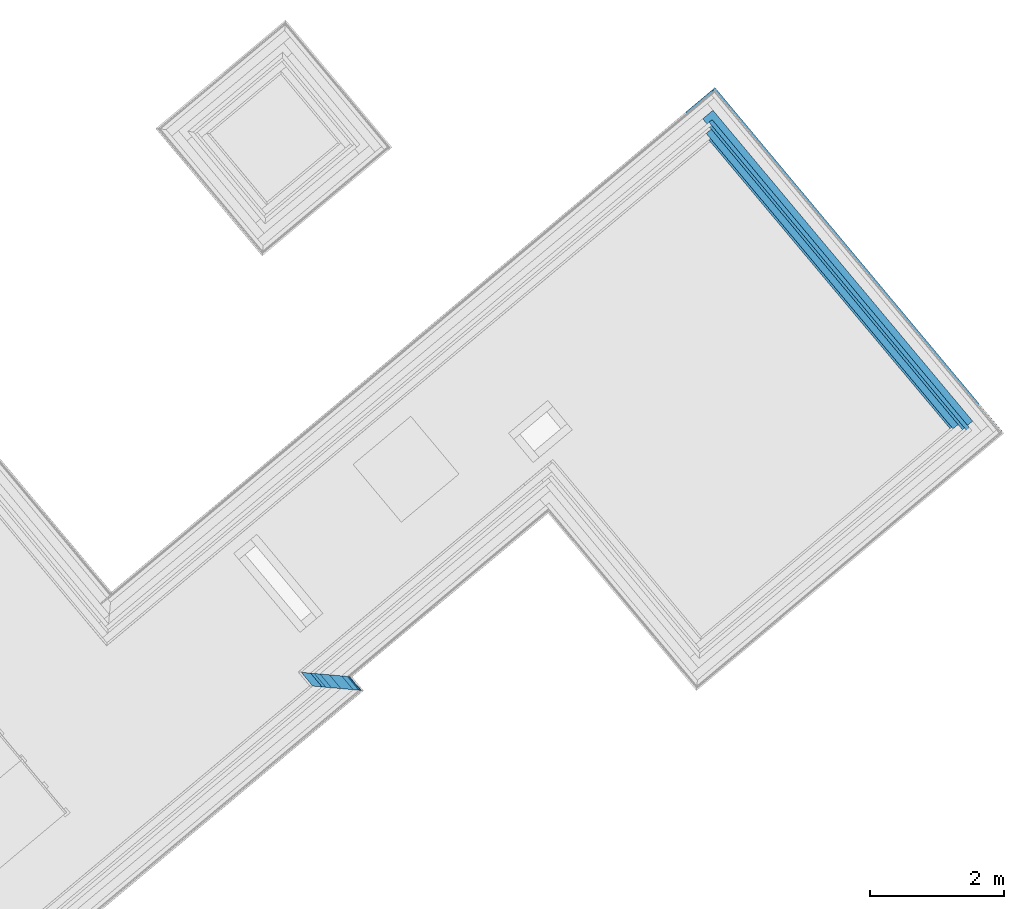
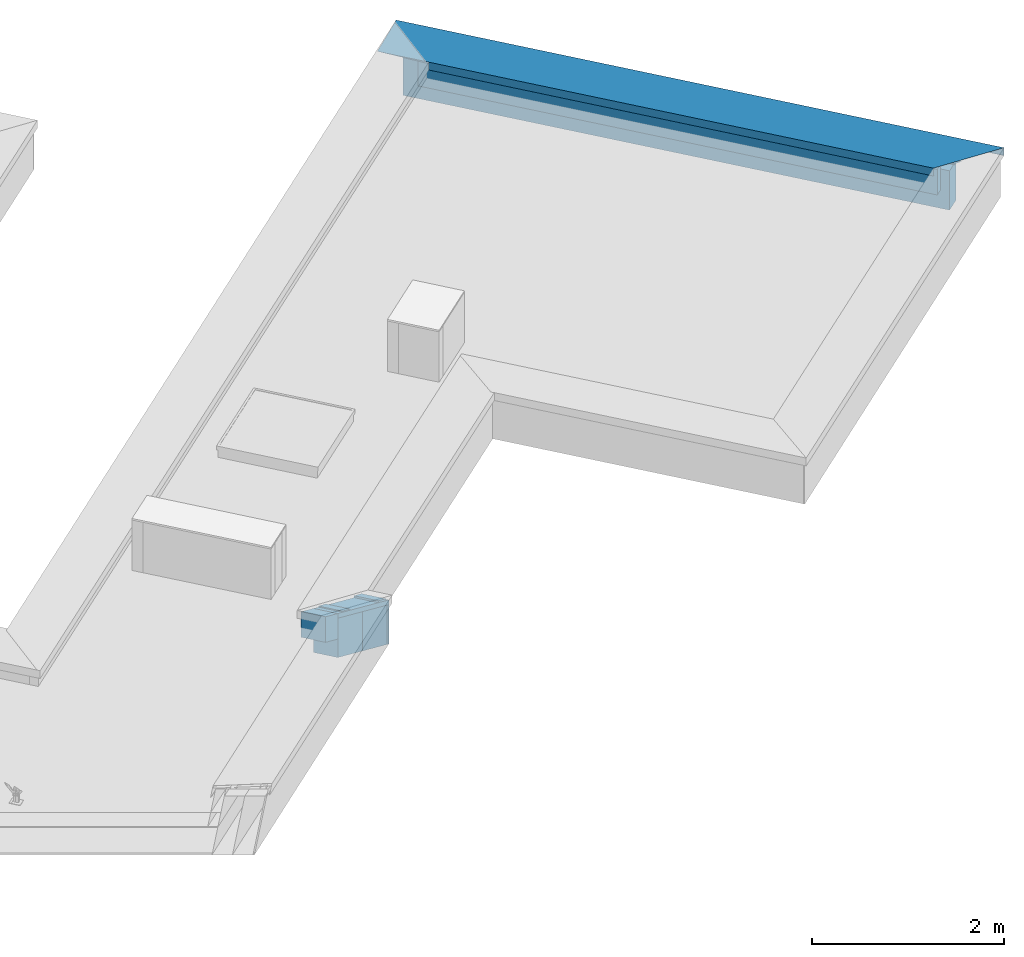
# One storey, part 12 of 13: 12 building element parts, 2 elements without a shape of their own.
"""IFC4 building model written with IfcOpenShell, lengths in metres."""

from ifc_helpers import new_model, entity, si_unit, converted_unit, derived_unit, direction, frame, origin_with_axes, place, context, subcontext, project, spatial, polygons, material, type_object, element, aggregate, save


model = new_model("IFC4")

# Units and contexts
model_context = context("Model", 3, precision=1e-05, world=origin_with_axes(), true_north=direction((0.0, 1.0)))
body_context = subcontext(model_context, "Body", "Model", "MODEL_VIEW")
ifc_project = project(units=[si_unit("LENGTHUNIT", "METRE"), si_unit("AREAUNIT", "SQUARE_METRE"), si_unit("VOLUMEUNIT", "CUBIC_METRE"), converted_unit("PLANEANGLEUNIT", "DEGREE", entity("IfcPlaneAngleMeasure", 0.0174532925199), si_unit("PLANEANGLEUNIT", "RADIAN"), dimensions=[0, 0, 0, 0, 0, 0, 0]), converted_unit("TIMEUNIT", "Year", entity("IfcTimeMeasure", 31556926.0), si_unit("TIMEUNIT", "SECOND"), dimensions=[0, 0, 1, 0, 0, 0, 0]), si_unit("MASSUNIT", "GRAM", prefix="KILO"), si_unit("THERMODYNAMICTEMPERATUREUNIT", "DEGREE_CELSIUS"), si_unit("LUMINOUSINTENSITYUNIT", "LUMEN"), si_unit("ENERGYUNIT", "JOULE", prefix="MEGA"), derived_unit("THERMALCONDUCTANCEUNIT", [(si_unit("POWERUNIT", "WATT"), 1), (si_unit("LENGTHUNIT", "METRE"), -1), (si_unit("THERMODYNAMICTEMPERATUREUNIT", "KELVIN"), -1)]), derived_unit("SPECIFICHEATCAPACITYUNIT", [(si_unit("ENERGYUNIT", "JOULE"), 1), (si_unit("MASSUNIT", "GRAM", prefix="KILO"), -1), (si_unit("THERMODYNAMICTEMPERATUREUNIT", "KELVIN"), -1)]), derived_unit("MASSDENSITYUNIT", [(si_unit("MASSUNIT", "GRAM", prefix="KILO"), 1), (si_unit("VOLUMEUNIT", "CUBIC_METRE"), -1)])], contexts=[model_context])

# Site, building, storey
site_placement = place(None, frame((-0.00153261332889, -0.00661245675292, 0.0), z_axis=(0.0, 0.0, 1.0), x_axis=(1.0, 0.0, 0.0)))
site = spatial("IfcSite", under=ifc_project, at=site_placement, Name="Gelände", CompositionType="ELEMENT")
building_placement = place(site_placement, origin_with_axes())
building = spatial("IfcBuilding", under=site, at=building_placement, Name="Gebäude", CompositionType="ELEMENT")
storey_placement = place(building_placement, frame((0.0, 0.0, 11.84), z_axis=(0.0, 0.0, 1.0), x_axis=(1.0, 0.0, 0.0)))
storey = spatial("IfcBuildingStorey", under=building, at=storey_placement, Name="DA", CompositionType="ELEMENT", Elevation=11.84)

# Wall, building element parts
wall_type = type_object("IfcWallType", Name="Individuelles Profil 574 x 610", PredefinedType="NOTDEFINED")
wall_1_placement = place(storey_placement, frame((2.48571839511, 17.6952214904, 0.0), z_axis=(0.0, 0.0, 1.0), x_axis=(-0.640621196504, 0.76785707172, 0.0)))
wall_1 = element("IfcWall", 1, at=wall_1_placement, inside=storey, type_object=wall_type, Name="Wand-004", PredefinedType="NOTDEFINED")
ifc_material_1 = material(Name="EPS 1")
building_element_part_1_placement = place(wall_1_placement, origin_with_axes())
building_element_part_1 = element("IfcBuildingElementPart", 2, at=building_element_part_1_placement, material=ifc_material_1, Name="EPS 1", PredefinedType="NOTDEFINED", context=body_context, shape_type="Tessellation", body=[
    polygons([(0.568969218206, 0.300000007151, 0.23500000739), (0.299575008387, 0.300000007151, 0.23500000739), (0.299575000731, 0.30000000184, 0.560000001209), (0.568969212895, 0.30000000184, 0.560000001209), (0.468969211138, 0.200000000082, 0.23500000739), (0.19971666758, 0.200000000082, 0.23500000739), (0.19971666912, 0.200000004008, 0.560000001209), (0.468969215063, 0.200000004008, 0.560000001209)], [[[1, 2, 3, 4]], [[2, 1, 5, 6]], [[7, 3, 2, 6]], [[8, 4, 3, 7]], [[4, 8, 5, 1]], [[5, 8, 7, 6]]], closed=True),
])
ifc_material_2 = material(Name="Vollholz")
building_element_part_2_placement = place(wall_1_placement, origin_with_axes())
building_element_part_2 = element("IfcBuildingElementPart", 3, at=building_element_part_2_placement, material=ifc_material_2, Name="Vollholz", PredefinedType="NOTDEFINED", context=body_context, shape_type="Tessellation", body=[
    polygons([(0.368969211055, 0.1, 0.560000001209), (0.368969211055, 0.1, 0.575979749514), (0.0998583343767, 0.1, 0.575979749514), (0.0998583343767, 0.1, 0.560000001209), (0.429079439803, 0.160110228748, 0.573880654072), (0.428969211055, 0.16, 0.560000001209), (0.159883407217, 0.160110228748, 0.573880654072), (0.159773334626, 0.16, 0.560000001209)], [[[1, 2, 3, 4]], [[5, 2, 1, 6]], [[2, 5, 7, 3]], [[4, 3, 7, 8]], [[6, 1, 4, 8]], [[5, 6, 8, 7]]], closed=True),
])
ifc_material_3 = material(Name="Stahlbeton Wand Garage")
building_element_part_3_placement = place(wall_1_placement, origin_with_axes())
building_element_part_3 = element("IfcBuildingElementPart", 4, at=building_element_part_3_placement, material=ifc_material_3, Name="Stahlbeton Wand Garage", PredefinedType="NOTDEFINED", context=body_context, shape_type="Tessellation", body=[
    polygons([(0.268969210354, -7.0115113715e-10, 0.0), (0.268969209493, -1.56214596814e-09, 0.500000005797), (-1.90311411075e-09, -2.53464271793e-09, 0.500000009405), (-7.83380471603e-10, -1.08753894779e-09, 0.0), (0.468969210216, 0.199999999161, 0.500000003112), (0.468969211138, 0.200000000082, 0.0), (0.468969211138, 0.200000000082, 0.23500000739), (0.199716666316, 0.199999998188, 0.500000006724), (0.19971666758, 0.200000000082, 0.0), (0.19971666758, 0.200000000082, 0.23500000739)], [[[1, 2, 3, 4]], [[5, 2, 1, 6, 7]], [[2, 5, 8, 3]], [[9, 4, 3, 8, 10]], [[6, 1, 4, 9]], [[7, 6, 9, 10]], [[5, 7, 10, 8]]], closed=True),
])
ifc_material_4 = material(Name="Brettschichtholz")
building_element_part_4_placement = place(wall_1_placement, origin_with_axes())
building_element_part_4 = element("IfcBuildingElementPart", 5, at=building_element_part_4_placement, material=ifc_material_4, Name="Brettschichtholz", PredefinedType="NOTDEFINED", context=body_context, shape_type="Tessellation", body=[
    polygons([(0.19971666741, 0.200000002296, 0.560000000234), (0.159773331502, 0.159999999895, 0.560000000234), (0.42896921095, 0.159999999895, 0.560000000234), (0.468969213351, 0.200000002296, 0.560000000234), (0.199716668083, 0.200000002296, 0.499999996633), (-0.214695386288, -0.214999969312, 0.50000001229), (-0.214695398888, -0.214999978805, 0.55999999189), (-0.189855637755, -0.190124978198, 0.560000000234), (-0.129940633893, -0.130124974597, 0.560000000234), (0.09985832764, 0.0999999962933, 0.560000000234), (0.368969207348, 0.0999999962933, 0.560000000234), (0.468969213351, 0.200000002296, 0.499999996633), (0.138844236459, -0.130124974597, 0.560000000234), (0.0788442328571, -0.190124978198, 0.560000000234), (0.0539692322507, -0.214999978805, 0.55999999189), (0.0539692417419, -0.214999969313, 0.50000001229)], [[[1, 2, 3, 4]], [[1, 5, 6, 7, 8, 9, 10, 2]], [[3, 2, 10, 11]], [[12, 4, 3, 11, 13, 14, 15, 16]], [[5, 1, 4, 12]], [[5, 12, 16, 6]], [[16, 15, 7, 6]], [[15, 14, 8, 7]], [[13, 9, 8, 14]], [[11, 10, 9, 13]]], closed=True),
])
building_element_part_5_placement = place(wall_1_placement, origin_with_axes())
building_element_part_5 = element("IfcBuildingElementPart", 6, at=building_element_part_5_placement, material=ifc_material_1, Name="EPS 1", PredefinedType="NOTDEFINED", context=body_context, shape_type="Tessellation", body=[
    polygons([(0.0689692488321, -0.199999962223, 0.0), (0.0689692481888, -0.199999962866, 0.500000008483), (-0.199716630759, -0.199999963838, 0.500000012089), (-0.199716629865, -0.19999996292, 0.0), (0.26896921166, 6.04444494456e-10, 0.500000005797), (0.268969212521, 1.46543932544e-09, 0.0), (2.60405030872e-10, -3.6805225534e-10, 0.500000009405), (1.38014222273e-09, 1.07904973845e-09, 0.0)], [[[1, 2, 3, 4]], [[5, 2, 1, 6]], [[2, 5, 7, 3]], [[4, 3, 7, 8]], [[6, 1, 4, 8]], [[5, 6, 8, 7]]], closed=True),
])
building_element_part_6_placement = place(wall_1_placement, origin_with_axes())
building_element_part_6 = element("IfcBuildingElementPart", 7, at=building_element_part_6_placement, material=ifc_material_2, Name="Vollholz", PredefinedType="NOTDEFINED", context=body_context, shape_type="Tessellation", body=[
    polygons([(0.138844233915, -0.130124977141, 0.560000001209), (0.0788442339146, -0.190124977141, 0.560000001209), (-0.189855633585, -0.190124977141, 0.560000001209), (-0.129940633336, -0.130124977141, 0.560000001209), (0.0789843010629, -0.189984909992, 0.586106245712), (0.138844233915, -0.130124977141, 0.584015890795), (-0.189715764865, -0.189984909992, 0.586106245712), (-0.129940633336, -0.130124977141, 0.584015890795)], [[[1, 2, 3, 4]], [[5, 2, 1, 6]], [[2, 5, 7, 3]], [[4, 3, 7, 8]], [[6, 1, 4, 8]], [[5, 6, 8, 7]]], closed=True),
])
ifc_material_5 = material(Name="Zementputz")
building_element_part_7_placement = place(wall_1_placement, origin_with_axes())
building_element_part_7 = element("IfcBuildingElementPart", 8, at=building_element_part_7_placement, material=ifc_material_5, Name="Zementputz", PredefinedType="NOTDEFINED", context=body_context, shape_type="Tessellation", body=[
    polygons([(0.0539692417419, -0.214999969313, 0.0), (0.0539692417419, -0.214999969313, 0.50000001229), (-0.214695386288, -0.214999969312, 0.50000001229), (-0.214695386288, -0.214999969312, 0.0), (0.0689692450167, -0.199999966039, 0.500000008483), (0.06896924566, -0.199999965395, 0.0), (-0.199716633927, -0.19999996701, 0.500000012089), (-0.199716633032, -0.199999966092, 0.0)], [[[1, 2, 3, 4]], [[5, 2, 1, 6]], [[2, 5, 7, 3]], [[4, 3, 7, 8]], [[6, 1, 4, 8]], [[5, 6, 8, 7]]], closed=True),
])
aggregate(wall_1, [building_element_part_1, building_element_part_2, building_element_part_3, building_element_part_4, building_element_part_5, building_element_part_6, building_element_part_7])

wall_2_placement = place(storey_placement, frame((8.04940660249, 26.3441297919, 0.0), z_axis=(0.0, 0.0, 1.0), x_axis=(0.641209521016, -0.767365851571, 0.0)))
wall_2 = element("IfcWall", 9, at=wall_2_placement, inside=storey, type_object=wall_type, Name="Wand-004", PredefinedType="NOTDEFINED")
building_element_part_8_placement = place(wall_2_placement, origin_with_axes())
building_element_part_8 = element("IfcBuildingElementPart", 10, at=building_element_part_8_placement, material=ifc_material_3, Name="Stahlbeton Wand Garage", PredefinedType="NOTDEFINED", context=body_context, shape_type="Tessellation", body=[
    polygons([(1.27252164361e-09, 0.0, 0.498822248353), (1.27252164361e-09, 0.0, 0.5), (6.05755328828, 0.0, 0.5), (6.05755328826, 0.0, 0.498822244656), (6.05755328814, 0.0, 0.491006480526), (6.0575532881, 0.0, 0.488695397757), (6.05755328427, 0.0, 0.235000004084), (6.05755328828, 0.0, 0.0), (1.27252164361e-09, 0.0, 0.0), (1.27252164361e-09, 0.0, 0.235000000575), (1.27252164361e-09, 0.0, 0.488695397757), (1.27252164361e-09, 0.0, 0.491006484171), (1.15820597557e-09, -0.2, 0.5), (1.15820597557e-09, -0.2, 0.498822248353), (6.05768353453, -0.2, 0.5), (6.05768353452, -0.2, 0.498822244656), (6.0576835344, -0.2, 0.491006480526), (6.05768353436, -0.2, 0.488695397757), (6.05768353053, -0.200000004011, 0.235000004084), (6.05768353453, -0.2, 0.0), (1.15820952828e-09, -0.2, 0.0), (1.15820775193e-09, -0.200000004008, 0.235000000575), (1.15820597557e-09, -0.2, 0.488695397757), (1.15820597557e-09, -0.2, 0.491006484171)], [[[1, 2, 3, 4, 5, 6, 7, 8, 9, 10, 11, 12]], [[13, 2, 1, 14]], [[2, 13, 15, 3]], [[4, 3, 15, 16]], [[4, 16, 17, 5]], [[5, 17, 18, 6]], [[6, 18, 19, 7]], [[7, 19, 20, 8]], [[21, 9, 8, 20]], [[22, 10, 9, 21]], [[23, 11, 10, 22]], [[24, 12, 11, 23]], [[14, 1, 12, 24]], [[13, 14, 24, 23, 22, 19, 18, 17, 16, 15]], [[22, 21, 20, 19]]], closed=True),
])
building_element_part_9_placement = place(wall_2_placement, origin_with_axes())
building_element_part_9 = element("IfcBuildingElementPart", 11, at=building_element_part_9_placement, material=ifc_material_2, Name="Vollholz", PredefinedType="NOTDEFINED", context=body_context, shape_type="Tessellation", body=[
    polygons([(0.0999999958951, -0.1, 0.573880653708), (0.0999998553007, -0.1, 0.575979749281), (6.15761843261, -0.100000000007, 0.575979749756), (6.09750819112, -0.1, 0.573880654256), (6.09755530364, -0.1, 0.567947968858), (6.09761841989, -0.1, 0.560000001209), (0.0999999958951, -0.1, 0.560000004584), (0.0999999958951, -0.1, 0.567947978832), (0.0999999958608, -0.160110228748, 0.573880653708), (6.09754733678, -0.160110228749, 0.573880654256), (6.09759441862, -0.160063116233, 0.567947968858), (6.09765749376, -0.16, 0.560000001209), (0.0999999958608, -0.16, 0.560000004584), (0.0999999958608, -0.160063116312, 0.567947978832)], [[[1, 2, 3, 4, 5, 6, 7, 8]], [[9, 2, 1]], [[2, 9, 10, 3]], [[4, 3, 10]], [[4, 10, 11, 5]], [[5, 11, 12, 6]], [[13, 7, 6, 12]], [[14, 8, 7, 13]], [[9, 1, 8, 14]], [[9, 14, 13, 12, 11, 10]]], closed=True),
])
building_element_part_10_placement = place(wall_2_placement, origin_with_axes())
building_element_part_10 = element("IfcBuildingElementPart", 12, at=building_element_part_10_placement, material=ifc_material_1, Name="EPS 1", PredefinedType="NOTDEFINED", context=body_context, shape_type="Tessellation", body=[
    polygons([(0.200000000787, -0.200000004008, 0.519224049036), (0.200000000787, -0.200000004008, 0.559999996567), (5.95768351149, -0.200000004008, 0.560000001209), (5.95768351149, -0.200000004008, 0.519224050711), (5.95768351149, -0.200000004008, 0.51136132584), (5.95768351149, -0.200000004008, 0.509050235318), (5.95768351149, -0.200000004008, 0.499999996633), (5.95768351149, -0.200000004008, 0.498822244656), (5.95768351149, -0.200000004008, 0.491006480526), (5.95768351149, -0.200000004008, 0.488695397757), (5.95768351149, -0.200000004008, 0.235000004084), (0.200000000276, -0.200000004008, 0.235000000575), (0.199999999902, -0.200000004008, 0.488695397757), (0.199999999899, -0.200000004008, 0.491006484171), (0.199999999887, -0.200000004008, 0.498822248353), (0.200000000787, -0.200000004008, 0.500000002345), (0.200000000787, -0.200000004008, 0.509050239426), (0.200000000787, -0.200000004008, 0.511361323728), (0.20000000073, -0.30000000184, 0.559999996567), (0.20000000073, -0.30000000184, 0.519224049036), (5.95774863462, -0.30000000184, 0.560000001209), (5.95774863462, -0.30000000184, 0.519224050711), (5.95774863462, -0.30000000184, 0.51136132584), (5.95774863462, -0.30000000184, 0.509050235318), (5.95774863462, -0.30000000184, 0.499999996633), (5.95774863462, -0.30000000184, 0.498822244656), (5.95774863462, -0.30000000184, 0.491006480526), (5.95774863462, -0.30000000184, 0.488695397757), (5.95774863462, -0.30000000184, 0.235000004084), (0.200000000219, -0.30000000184, 0.235000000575), (0.199999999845, -0.30000000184, 0.488695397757), (0.199999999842, -0.30000000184, 0.491006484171), (0.19999999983, -0.30000000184, 0.498822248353), (0.20000000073, -0.30000000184, 0.500000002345), (0.20000000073, -0.30000000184, 0.509050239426), (0.20000000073, -0.30000000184, 0.511361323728)], [[[1, 2, 3, 4, 5, 6, 7, 8, 9, 10, 11, 12, 13, 14, 15, 16, 17, 18]], [[19, 2, 1, 20]], [[2, 19, 21, 3]], [[4, 3, 21, 22]], [[4, 22, 23, 5]], [[5, 23, 24, 6]], [[6, 24, 25, 7]], [[7, 25, 26, 8]], [[8, 26, 27, 9]], [[9, 27, 28, 10]], [[10, 28, 29, 11]], [[30, 12, 11, 29]], [[31, 13, 12, 30]], [[32, 14, 13, 31]], [[33, 15, 14, 32]], [[34, 16, 15, 33]], [[35, 17, 16, 34]], [[36, 18, 17, 35]], [[20, 1, 18, 36]], [[19, 20, 36, 35, 34, 33, 32, 31, 30, 29, 28, 27, 26, 25, 24, 23, 22, 21]]], closed=True),
])
ifc_material_6 = material(Name="Holzwerkstoff")
building_element_part_11_placement = place(wall_2_placement, origin_with_axes())
building_element_part_11 = element("IfcBuildingElementPart", 13, at=building_element_part_11_placement, material=ifc_material_6, Name="Holzwerkstoff", PredefinedType="NOTDEFINED", context=body_context, shape_type="Tessellation", body=[
    polygons([(0.329999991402, -0.329999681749, 0.567947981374), (0.160110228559, -0.330207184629, 0.573880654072), (0.16011022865, -0.160110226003, 0.573880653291), (5.9277682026, -0.329999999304, 0.567947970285), (5.92756111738, -0.330207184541, 0.573880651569), (5.92748785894, -0.33028049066, 0.57597974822), (5.92720739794, -0.330561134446, 0.584015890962), (5.9271344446, -0.330634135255, 0.586106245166), (5.92707053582, -0.330698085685, 0.587937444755), (-0.239997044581, -0.330698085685, 0.587937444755), (-0.24000000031, -0.33069512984, 0.587852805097), (-0.189984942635, -0.330634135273, 0.586106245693), (-0.13012498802, -0.330561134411, 0.584015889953), (0.0999998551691, -0.330280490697, 0.575979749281), (0.0999998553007, -0.100000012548, 0.575979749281), (5.92745034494, -0.160110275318, 0.573880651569), (5.9273378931, -0.100000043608, 0.575979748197), (5.92690738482, 0.130124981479, 0.584015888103), (5.92679540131, 0.189984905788, 0.586106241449), (5.92670183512, 0.239999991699, 0.587852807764), (5.9266988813, 0.23999703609, 0.587937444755), (-0.239997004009, -0.330665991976, 0.587938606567), (6.49667405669, 0.239276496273, 0.608570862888), (-0.239276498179, 0.239276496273, 0.608570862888), (-0.239997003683, 0.239996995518, 0.587938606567), (-0.23999999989, 0.239999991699, 0.587852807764), (-0.18998494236, 0.189984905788, 0.586106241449), (-0.130124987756, 0.130124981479, 0.584015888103)], [[[1, 2, 3]], [[2, 1, 4, 5, 6, 7, 8, 9, 10, 11, 12, 13, 14]], [[3, 2, 14, 15]], [[1, 3, 16, 4]], [[5, 4, 16]], [[6, 5, 16, 17]], [[7, 6, 17, 18]], [[8, 7, 18, 19]], [[9, 8, 19, 20, 21]], [[22, 10, 9, 23, 24]], [[11, 10, 22, 25, 26]], [[12, 11, 26, 27]], [[13, 12, 27, 28]], [[15, 14, 13, 28]], [[3, 15, 17, 16]], [[15, 28, 18, 17]], [[28, 27, 19, 18]], [[27, 26, 20, 19]], [[26, 25, 24, 23, 21, 20]], [[23, 9, 21]], [[25, 22, 24]]], closed=True),
])
ifc_material_7 = material(Name="Stahl")
building_element_part_12_placement = place(wall_2_placement, origin_with_axes())
building_element_part_12 = element("IfcBuildingElementPart", 14, at=building_element_part_12_placement, material=ifc_material_7, Name="Stahl", PredefinedType="NOTDEFINED", context=body_context, shape_type="Tessellation", body=[
    polygons([(0.330698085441, -0.330698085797, 0.491006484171), (0.33069808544, -0.332051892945, 0.491006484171), (0.330698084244, -0.332051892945, 0.49882224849), (0.330698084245, -0.330698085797, 0.49882224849), (0.328783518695, -0.330698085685, 0.491006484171), (0.328783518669, -0.332051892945, 0.491006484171), (0.330137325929, -0.332051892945, 0.489652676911), (5.92571760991, -0.332051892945, 0.489652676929), (5.92571760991, -0.332051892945, 0.491006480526), (5.92571760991, -0.332051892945, 0.498822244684), (5.92571760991, -0.332051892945, 0.499999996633), (5.92571760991, -0.332051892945, 0.509050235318), (5.92571760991, -0.332051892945, 0.51136132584), (5.92571760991, -0.332051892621, 0.519224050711), (5.92571760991, -0.332051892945, 0.55999999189), (5.92571760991, -0.332051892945, 0.567947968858), (5.92571760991, -0.332051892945, 0.573880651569), (5.92571760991, -0.332051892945, 0.575979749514), (5.92571760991, -0.332051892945, 0.584015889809), (5.92571760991, -0.332051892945, 0.586106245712), (5.92571760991, -0.332051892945, 0.587937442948), (5.92571769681, -0.332051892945, 0.58924311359), (0.294660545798, -0.332051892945, 0.58924311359), (0.330698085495, -0.332051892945, 0.587938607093), (0.330698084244, -0.332051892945, 0.586106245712), (0.330698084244, -0.332051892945, 0.584015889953), (0.330698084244, -0.332051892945, 0.575979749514), (0.330698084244, -0.332051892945, 0.573880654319), (0.330698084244, -0.332051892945, 0.567947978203), (0.330698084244, -0.332051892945, 0.559999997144), (0.330698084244, -0.332051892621, 0.519224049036), (0.330698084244, -0.332051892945, 0.511361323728), (0.330698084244, -0.332051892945, 0.509050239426), (0.330698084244, -0.332051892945, 0.5), (0.330698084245, -0.330698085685, 0.5), (0.330698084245, -0.330698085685, 0.509050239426), (0.330698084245, -0.330698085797, 0.511361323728), (0.330698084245, -0.330698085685, 0.519224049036), (0.330698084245, -0.330698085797, 0.559999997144), (0.330698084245, -0.330698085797, 0.567947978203), (0.330698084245, -0.330698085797, 0.573880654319), (0.330698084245, -0.330698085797, 0.575979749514), (0.330698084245, -0.330698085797, 0.584015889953), (0.330698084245, -0.330698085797, 0.586106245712), (0.330698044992, -0.330698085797, 0.587937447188), (5.92571672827, -0.330698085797, 0.587937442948), (5.92571672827, -0.330698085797, 0.586106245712), (5.92571672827, -0.330698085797, 0.584015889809), (5.92571672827, -0.330698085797, 0.575979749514), (5.92571672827, -0.330698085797, 0.573880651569), (5.92571672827, -0.330698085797, 0.567947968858), (5.92571672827, -0.330698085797, 0.55999999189), (5.92571672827, -0.330698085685, 0.519224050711), (5.92571672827, -0.330698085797, 0.51136132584), (5.92571672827, -0.330698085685, 0.509050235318), (5.92571672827, -0.330698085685, 0.499999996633), (5.92571672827, -0.330698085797, 0.498822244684), (5.92571672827, -0.330698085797, 0.491006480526), (5.92707053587, -0.330698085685, 0.491006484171), (5.93488120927, -0.32288233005, 0.498822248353), (0.322882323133, -0.32288233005, 0.498822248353), (0.321878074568, -0.323792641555, 0.497911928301), (0.328783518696, -0.328783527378, 0.491006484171), (0.331094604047, -0.331094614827, 0.488695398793), (5.92667426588, -0.331094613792, 0.488695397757), (5.92571636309, -0.33013733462, 0.489652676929), (5.92571548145, -0.32878353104, 0.491006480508), (5.92569324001, -0.294630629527, 0.589243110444), (-0.240152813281, 0.202752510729, 0.608603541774), (6.4592717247, 0.201849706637, 0.608570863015), (6.46015199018, 0.202730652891, 0.608602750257), (6.49889636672, 0.241500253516, 0.610006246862), (-0.241500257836, 0.241500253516, 0.610006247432), (-0.2415002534, 0.202730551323, 0.608602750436), (-0.240152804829, 0.24006611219, 0.608599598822), (-0.240152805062, 0.240152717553, 0.608602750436), (-0.239889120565, 0.239802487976, 0.608590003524), (-0.239493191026, 0.239276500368, 0.608570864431), (-0.239276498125, 0.239276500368, 0.608570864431), (0.330698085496, -0.330666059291, 0.587938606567), (6.45924735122, 0.239276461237, 0.608570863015), (5.92706928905, -0.328783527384, 0.491006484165), (5.93397024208, -0.321878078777, 0.497911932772), (0.321878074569, -0.321878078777, 0.497911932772), (6.45933218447, 0.239360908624, 0.608573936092), (6.4601276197, 0.240152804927, 0.608602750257), (6.4601267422, 0.241500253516, 0.608602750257), (-0.241500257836, 0.241500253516, 0.510007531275), (6.49754891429, 0.241500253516, 0.608602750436), (6.49754891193, 0.241500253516, 0.608570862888), (6.4975475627, 0.241500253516, 0.587937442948), (6.49754744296, 0.241500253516, 0.586106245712), (6.49754730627, 0.241500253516, 0.584015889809), (6.49754678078, 0.241500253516, 0.575979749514), (6.49754664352, 0.241500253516, 0.573880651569), (6.49754625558, 0.241500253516, 0.567947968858), (6.49754573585, 0.241500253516, 0.55999999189), (6.49754306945, 0.241500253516, 0.519224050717), (6.49754255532, 0.241500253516, 0.51136132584), (6.49562799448, 0.241500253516, 0.511361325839), (6.49698179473, 0.241500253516, 0.510007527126), (-0.241500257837, 0.239585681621, 0.510007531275), (-0.24150025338, 0.238231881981, 0.51136132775), (-0.241500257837, 0.240146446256, 0.51136132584), (-0.241500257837, 0.240152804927, 0.608602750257), (6.49754979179, 0.240152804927, 0.608602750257), (6.49754978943, 0.240152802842, 0.608570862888), (6.49754844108, 0.240151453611, 0.587937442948), (6.49754832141, 0.240151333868, 0.586106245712), (6.49754818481, 0.240151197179, 0.584015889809), (6.49754765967, 0.240150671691, 0.575979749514), (6.4975475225, 0.24015053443, 0.573880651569), (6.49754713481, 0.240150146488, 0.567947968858), (6.49754661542, 0.240149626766, 0.55999999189), (6.49754395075, 0.240146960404, 0.519224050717), (6.49754343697, 0.240146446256, 0.51136132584), (6.49562887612, 0.240146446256, 0.511361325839), (6.49563012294, 0.238231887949, 0.51136132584), (6.49793970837, 0.240542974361, 0.509050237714), (-0.240542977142, 0.240542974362, 0.509050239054), (-0.240146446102, 0.238231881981, 0.51136132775), (6.48877610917, 0.231373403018, 0.518219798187), (-0.233287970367, 0.231373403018, 0.518219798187), (-0.240146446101, 0.240146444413, 0.51136132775), (6.48877485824, 0.233287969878, 0.518219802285), (-0.232283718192, 0.232283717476, 0.519224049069), (6.48968583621, 0.232283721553, 0.51922405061)], [[[1, 2, 3, 4]], [[2, 1, 5, 6]], [[3, 2, 6, 7, 8, 9, 10, 11, 12, 13, 14, 15, 16, 17, 18, 19, 20, 21, 22, 23, 24, 25, 26, 27, 28, 29, 30, 31, 32, 33, 34]], [[4, 3, 34, 35]], [[1, 4, 35, 36, 37, 38, 39, 40, 41, 42, 43, 44, 45, 46, 47, 48, 49, 50, 51, 52, 53, 54, 55, 56, 57, 58]], [[5, 1, 58, 59, 60, 61, 62]], [[7, 6, 5, 63, 64]], [[7, 64, 65, 8]], [[9, 8, 66, 67, 58]], [[10, 9, 58, 57]], [[11, 10, 57, 56]], [[12, 11, 56, 55]], [[13, 12, 55, 54]], [[14, 13, 54, 53]], [[15, 14, 53, 52]], [[16, 15, 52, 51]], [[17, 16, 51, 50]], [[18, 17, 50, 49]], [[19, 18, 49, 48]], [[20, 19, 48, 47]], [[21, 20, 47, 46]], [[22, 21, 46, 68]], [[69, 23, 22, 70, 71, 72, 73, 74]], [[24, 23, 69, 75, 76, 77, 78, 79, 80, 45]], [[25, 24, 45, 44]], [[26, 25, 44, 43]], [[27, 26, 43, 42]], [[28, 27, 42, 41]], [[29, 28, 41, 40]], [[30, 29, 40, 39]], [[30, 39, 38, 31]], [[37, 32, 31, 38]], [[33, 32, 37, 36]], [[34, 33, 36, 35]], [[45, 80, 79, 81, 68, 46]], [[59, 58, 67, 82]], [[60, 59, 82, 83]], [[84, 61, 60, 83]], [[84, 62, 61]], [[63, 5, 62, 84]], [[64, 63, 84, 83, 82, 67, 66, 65]], [[8, 65, 66]], [[81, 70, 22, 68]], [[71, 70, 81, 85, 86]], [[72, 71, 86, 87]], [[88, 73, 72, 87, 89, 90, 91, 92, 93, 94, 95, 96, 97, 98, 99, 100, 101]], [[102, 103, 104, 105, 74, 73, 88]], [[69, 74, 105, 75]], [[75, 105, 76]], [[79, 78, 77, 76, 86, 85, 81]], [[106, 89, 87, 86]], [[106, 107, 90, 89]], [[108, 91, 90, 107]], [[108, 109, 92, 91]], [[109, 110, 93, 92]], [[110, 111, 94, 93]], [[111, 112, 95, 94]], [[112, 113, 96, 95]], [[113, 114, 97, 96]], [[114, 115, 98, 97]], [[115, 116, 99, 98]], [[116, 117, 100, 99]], [[118, 119, 101, 100, 117]], [[120, 88, 101, 119]], [[121, 103, 102, 120, 119, 118, 122, 123]], [[103, 121, 124, 104]], [[104, 124, 117, 116, 115, 114, 113, 112, 111, 110, 109, 108, 107, 106, 86, 76, 105]], [[120, 102, 88]], [[118, 117, 125, 122]], [[126, 123, 122, 127]], [[121, 123, 126, 124]], [[124, 126, 127, 125, 117]], [[127, 122, 125]]], closed=True),
])
aggregate(wall_2, [building_element_part_8, building_element_part_9, building_element_part_10, building_element_part_11, building_element_part_12])

save(model, "model.ifc")
